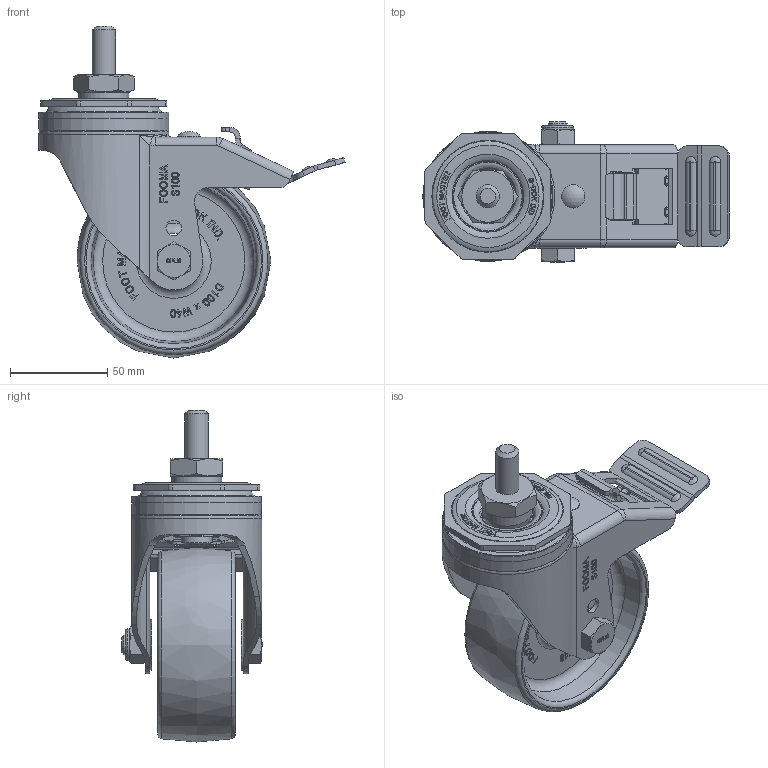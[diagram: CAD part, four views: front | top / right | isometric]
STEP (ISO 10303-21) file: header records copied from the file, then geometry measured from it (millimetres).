
FILE_DESCRIPTION(/* description */ (''),/* implementation_level */ '2;1');
FILE_NAME(/* name */ '\\192.168.10.38\지덕공유\1.기술연구소\2.연구개발 완료\완료_98.스테인레스캐스터 개발건_2023.10.26\제품설계\3D\홈페이지용\NYP\STP\SPLM-100-BSS-NYP-PM12.stp',/* time_stamp */ '2025-07-17T16:49:19+09:00',/* author */ ('admin'),/* organization */ ('지덕산업'),/* preprocessor_version */ 'ST-DEVELOPER v18.1',/* originating_system */ 'Autodesk Inventor 2021',/* authorisation */ '');
FILE_SCHEMA (('CONFIG_CONTROL_DESIGN'));
Products named in the file (1): SPLM-100-BSS-NYP-PM12
Bounding box: 157.79 x 72.3 x 171 mm (x, y, z)
Volume: 286118.6 mm3; surface area: 96194.1 mm2
Topology: 1 solids, 1 shells, 1763 faces, 4686 edges, 3025 vertices
Faces by surface type: plane 901, bspline 506, cylinder 253, cone 66, torus 36, sphere 1
Full cylindrical faces by diameter (mm): 6 x1, 7 x3, 8 x2, 9 x1, 10 x2, 11 x1, 12 x2, 16 x2, 16.5 x1, 25.8 x1, 54 x1, 67 x1
Entity records: 56428 total; most frequent: CARTESIAN_POINT 15923, ORIENTED_EDGE 9364, DIRECTION 6719, EDGE_CURVE 4682, VERTEX_POINT 3025, LINE 2827, VECTOR 2827, AXIS2_PLACEMENT_3D 1946
